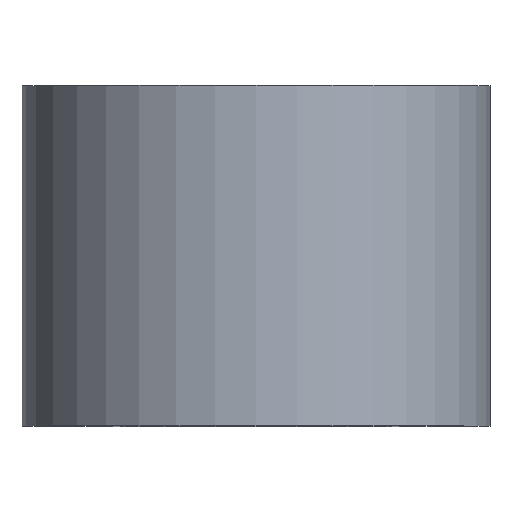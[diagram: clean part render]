
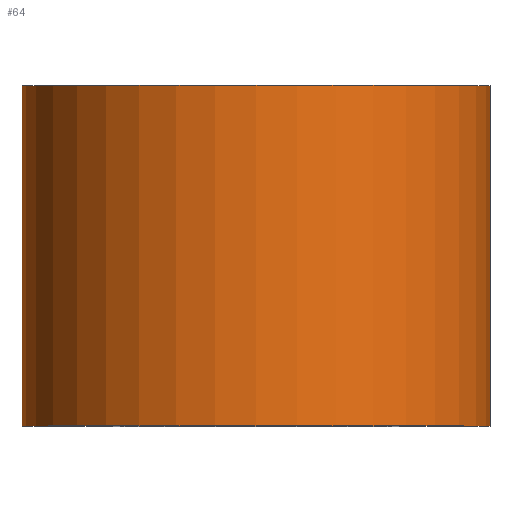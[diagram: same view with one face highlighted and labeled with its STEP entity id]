
A CAD part, top view. The second image highlights one B-rep face of the part: STEP entity #64.
In plain terms, the highlighted cylindrical face has radius 11 mm (diameter 22 mm), a partial arc.
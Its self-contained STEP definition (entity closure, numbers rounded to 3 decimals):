
#10 = EDGE_CURVE ( 'NONE', #248, #137, #124, .T. ) ;
#15 = DIRECTION ( 'NONE',  ( -1., 0., 0. ) ) ;
#16 = AXIS2_PLACEMENT_3D ( 'NONE', #162, #86, #15 ) ;
#23 = VERTEX_POINT ( 'NONE', #38 ) ;
#32 = DIRECTION ( 'NONE',  ( -1., 0., 0. ) ) ;
#34 = CARTESIAN_POINT ( 'NONE',  ( -11., 16., 0. ) ) ;
#35 = AXIS2_PLACEMENT_3D ( 'NONE', #192, #114, #112 ) ;
#38 = CARTESIAN_POINT ( 'NONE',  ( 11., 16., 0. ) ) ;
#44 = AXIS2_PLACEMENT_3D ( 'NONE', #269, #150, #32 ) ;
#64 = ADVANCED_FACE ( 'NONE', ( #251 ), #90, .T. ) ;
#86 = DIRECTION ( 'NONE',  ( 0., 1., 0. ) ) ;
#89 = ORIENTED_EDGE ( 'NONE', *, *, #10, .T. ) ;
#90 = CYLINDRICAL_SURFACE ( 'NONE', #35, 11. ) ;
#112 = DIRECTION ( 'NONE',  ( -1., 0., 0. ) ) ;
#113 = CARTESIAN_POINT ( 'NONE',  ( 11., 0., 0. ) ) ;
#114 = DIRECTION ( 'NONE',  ( 0., 1., 0. ) ) ;
#117 = ORIENTED_EDGE ( 'NONE', *, *, #252, .F. ) ;
#121 = EDGE_LOOP ( 'NONE', ( #89, #185, #138, #117 ) ) ;
#122 = DIRECTION ( 'NONE',  ( 0., 1., 0. ) ) ;
#124 = CIRCLE ( 'NONE', #16, 11. ) ;
#133 = CIRCLE ( 'NONE', #44, 11. ) ;
#134 = DIRECTION ( 'NONE',  ( 0., 1., 0. ) ) ;
#137 = VERTEX_POINT ( 'NONE', #113 ) ;
#138 = ORIENTED_EDGE ( 'NONE', *, *, #279, .F. ) ;
#141 = VECTOR ( 'NONE', #134, 1000. ) ;
#145 = CARTESIAN_POINT ( 'NONE',  ( -11., 0., 0. ) ) ;
#148 = VECTOR ( 'NONE', #122, 1000. ) ;
#150 = DIRECTION ( 'NONE',  ( 0., 1., 0. ) ) ;
#162 = CARTESIAN_POINT ( 'NONE',  ( 0., 0., 0. ) ) ;
#185 = ORIENTED_EDGE ( 'NONE', *, *, #232, .T. ) ;
#192 = CARTESIAN_POINT ( 'NONE',  ( 0., 0., 0. ) ) ;
#218 = LINE ( 'NONE', #145, #148 ) ;
#228 = CARTESIAN_POINT ( 'NONE',  ( -11., 0., 0. ) ) ;
#232 = EDGE_CURVE ( 'NONE', #137, #23, #300, .T. ) ;
#239 = CARTESIAN_POINT ( 'NONE',  ( 11., 0., 0. ) ) ;
#248 = VERTEX_POINT ( 'NONE', #228 ) ;
#251 = FACE_OUTER_BOUND ( 'NONE', #121, .T. ) ;
#252 = EDGE_CURVE ( 'NONE', #248, #299, #218, .T. ) ;
#269 = CARTESIAN_POINT ( 'NONE',  ( 0., 16., 0. ) ) ;
#279 = EDGE_CURVE ( 'NONE', #299, #23, #133, .T. ) ;
#299 = VERTEX_POINT ( 'NONE', #34 ) ;
#300 = LINE ( 'NONE', #239, #141 ) ;
